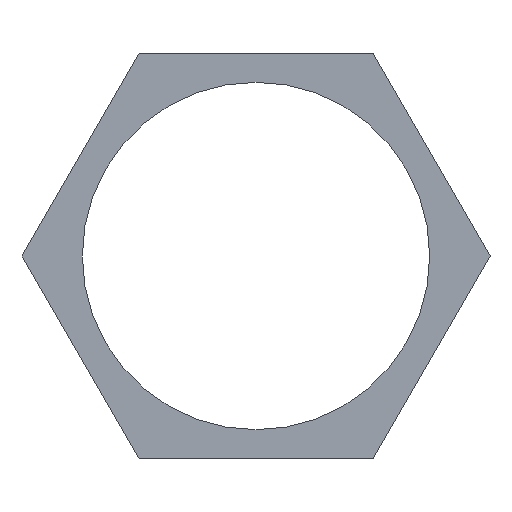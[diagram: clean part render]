
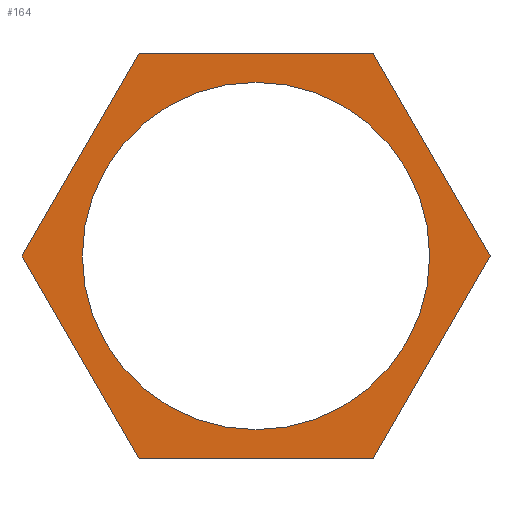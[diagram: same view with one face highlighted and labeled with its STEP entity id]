
A CAD part, front view. The second image highlights one B-rep face of the part: STEP entity #164.
In plain terms, the highlighted planar face has unit normal (0, -1, 0).
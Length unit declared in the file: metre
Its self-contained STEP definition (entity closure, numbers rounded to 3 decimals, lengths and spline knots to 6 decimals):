
#12=CIRCLE('',#185,0.006);
#41=ORIENTED_EDGE('',*,*,#71,.F.);
#42=ORIENTED_EDGE('',*,*,#57,.T.);
#43=ORIENTED_EDGE('',*,*,#61,.T.);
#44=ORIENTED_EDGE('',*,*,#64,.T.);
#45=ORIENTED_EDGE('',*,*,#67,.T.);
#46=ORIENTED_EDGE('',*,*,#70,.T.);
#47=ORIENTED_EDGE('',*,*,#74,.T.);
#57=EDGE_CURVE('',#78,#77,#91,.T.);
#61=EDGE_CURVE('',#77,#80,#95,.T.);
#64=EDGE_CURVE('',#80,#82,#98,.T.);
#67=EDGE_CURVE('',#82,#84,#101,.T.);
#70=EDGE_CURVE('',#84,#86,#104,.T.);
#71=EDGE_CURVE('',#87,#87,#12,.T.);
#74=EDGE_CURVE('',#86,#78,#106,.T.);
#77=VERTEX_POINT('',#238);
#78=VERTEX_POINT('',#240);
#80=VERTEX_POINT('',#246);
#82=VERTEX_POINT('',#252);
#84=VERTEX_POINT('',#258);
#86=VERTEX_POINT('',#264);
#87=VERTEX_POINT('',#268);
#91=LINE('',#239,#109);
#95=LINE('',#247,#113);
#98=LINE('',#253,#116);
#101=LINE('',#259,#119);
#104=LINE('',#265,#122);
#106=LINE('',#273,#124);
#109=VECTOR('',#196,1.);
#113=VECTOR('',#202,1.);
#116=VECTOR('',#207,1.);
#119=VECTOR('',#212,1.);
#122=VECTOR('',#217,1.);
#124=VECTOR('',#227,1.);
#133=EDGE_LOOP('',(#41));
#134=EDGE_LOOP('',(#42,#43,#44,#45,#46,#47));
#145=FACE_BOUND('',#133,.T.);
#146=FACE_BOUND('',#134,.T.);
#155=PLANE('',#188);
#164=ADVANCED_FACE('',(#145,#146),#155,.T.);
#185=AXIS2_PLACEMENT_3D('',#267,#220,#221);
#188=AXIS2_PLACEMENT_3D('',#274,#228,#229);
#196=DIRECTION('',(-0.5,0.,0.866));
#202=DIRECTION('',(-1.,0.,0.));
#207=DIRECTION('',(-0.5,0.,-0.866));
#212=DIRECTION('',(0.5,0.,-0.866));
#217=DIRECTION('',(1.,0.,0.));
#220=DIRECTION('',(0.,-1.,0.));
#221=DIRECTION('',(0.,0.,-1.));
#227=DIRECTION('',(0.5,0.,0.866));
#228=DIRECTION('',(0.,-1.,0.));
#229=DIRECTION('',(1.,0.,0.));
#238=CARTESIAN_POINT('',(0.021749,0.035885,0.013863));
#239=CARTESIAN_POINT('',(0.02377,0.035885,0.010363));
#240=CARTESIAN_POINT('',(0.025791,0.035885,0.006863));
#246=CARTESIAN_POINT('',(0.013666,0.035885,0.013863));
#247=CARTESIAN_POINT('',(0.017708,0.035885,0.013863));
#252=CARTESIAN_POINT('',(0.009625,0.035885,0.006863));
#253=CARTESIAN_POINT('',(0.011645,0.035885,0.010363));
#258=CARTESIAN_POINT('',(0.013666,0.035885,-0.000137));
#259=CARTESIAN_POINT('',(0.011645,0.035885,0.003363));
#264=CARTESIAN_POINT('',(0.021749,0.035885,-0.000137));
#265=CARTESIAN_POINT('',(0.017708,0.035885,-0.000137));
#267=CARTESIAN_POINT('',(0.017708,0.035885,0.006863));
#268=CARTESIAN_POINT('',(0.017708,0.035885,0.000863));
#273=CARTESIAN_POINT('',(0.02377,0.035885,0.003363));
#274=CARTESIAN_POINT('',(0.017708,0.035885,0.006863));
